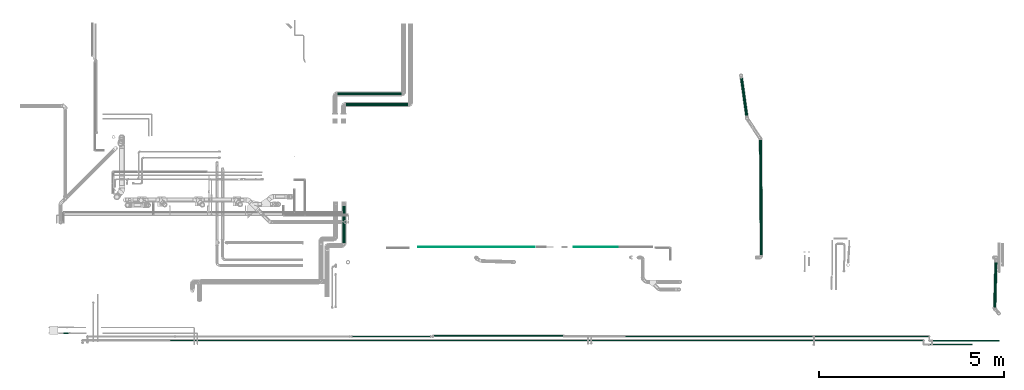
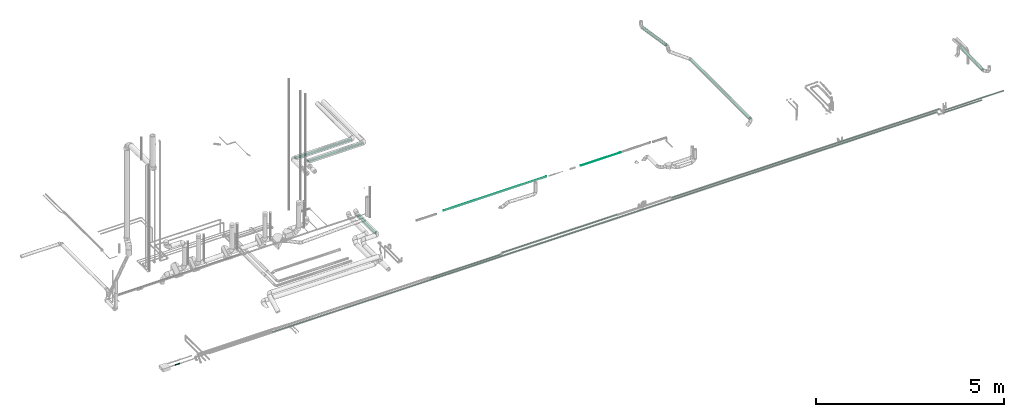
# One storey, part 52 of 156: 16 flow segments.
"""IFC2X3 building model written with IfcOpenShell, lengths in millimetres."""

from ifc_helpers import new_model, entity, si_unit, converted_unit, derived_unit, direction, frame, origin_with_axes, origin_2d_with_axis, place, context, subcontext, project, spatial, hollow_circle, extrude, source, transform, mapped, type_object, element, save


model = new_model("IFC2X3")

# Units and contexts
model_context = context("Model", 3, precision=0.01, world=frame((0.0, 4.29681676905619e-09, 0.0)), true_north=direction((4.01073788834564e-13, 1.0)))
plan_context = context("Plan", 3, precision=0.01, world=frame((0.0, 4.29681676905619e-09, 0.0)), true_north=direction((4.01073788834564e-13, 1.0)))
body_context = subcontext(model_context, "Body", "Model", "MODEL_VIEW")
ifc_project = project(units=[converted_unit("PLANEANGLEUNIT", "DEGREE", entity("IfcPositiveLengthMeasure", 0.0174532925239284), si_unit("PLANEANGLEUNIT", "RADIAN"), dimensions=[0, 0, 0, 0, 0, 0, 0]), si_unit("AREAUNIT", "SQUARE_METRE"), si_unit("LENGTHUNIT", "METRE", prefix="MILLI"), si_unit("MASSUNIT", "GRAM", prefix="KILO"), si_unit("POWERUNIT", "WATT"), si_unit("PRESSUREUNIT", "PASCAL", prefix="KILO"), si_unit("FORCEUNIT", "NEWTON", prefix="KILO"), si_unit("ELECTRICVOLTAGEUNIT", "VOLT"), si_unit("ELECTRICCURRENTUNIT", "AMPERE"), si_unit("THERMODYNAMICTEMPERATUREUNIT", "DEGREE_CELSIUS"), si_unit("TIMEUNIT", "SECOND"), si_unit("VOLUMEUNIT", "CUBIC_METRE"), derived_unit("LINEARVELOCITYUNIT", [(si_unit("LENGTHUNIT", "METRE"), 1), (si_unit("TIMEUNIT", "SECOND"), -1)]), derived_unit("VOLUMETRICFLOWRATEUNIT", [(si_unit("VOLUMEUNIT", "CUBIC_METRE"), 1), (si_unit("TIMEUNIT", "SECOND"), -1)]), derived_unit("THERMALTRANSMITTANCEUNIT", [(si_unit("POWERUNIT", "WATT"), 1), (si_unit("THERMODYNAMICTEMPERATUREUNIT", "KELVIN"), -1), (si_unit("AREAUNIT", "SQUARE_METRE"), -1)]), derived_unit("SOUNDPRESSUREUNIT", [(si_unit("PRESSUREUNIT", "PASCAL"), 1)])], contexts=[model_context, plan_context])

# Site, building, storey
site_placement = place(None, frame((0.0, -4.29681676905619e-09, 0.0), z_axis=(0.0, 0.0, 1.0), x_axis=(1.0, 0.0, 0.0)))
site = spatial("IfcSite", under=ifc_project, at=site_placement, CompositionType="ELEMENT")
building_placement = place(site_placement, frame((0.0, 4.29681676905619e-09, 0.0), z_axis=(0.0, 0.0, 1.0), x_axis=(1.0, 0.0, 0.0)))
building = spatial("IfcBuilding", under=site, at=building_placement, Name="mc-building", CompositionType="ELEMENT")
storey_placement = place(building_placement, frame((0.0, 0.0, 205200.0), z_axis=(0.0, 0.0, 1.0), x_axis=(1.0, 0.0, 0.0)))
storey = spatial("IfcBuildingStorey", under=building, at=storey_placement, Name="Nivå D + 1,2 m", CompositionType="ELEMENT", Elevation=205200.0)

# Flow segments
pipe_segment_type_1 = type_object("IfcPipeSegmentType", Name="Stålrør normaltykke", PredefinedType="RIGIDSEGMENT")
shared_shape_1 = source(origin_with_axes(), body_context, "Body", "SweptSolid", [
    extrude(hollow_circle(Radius=13.3, WallThickness=2.0, at=origin_2d_with_axis()), frame((0.0, 0.0, 0.0), z_axis=(1.0, 0.0, 0.0), x_axis=(0.0, 1.0, 0.0)), (0.0, 0.0, 1.0), 140.3),
])
flow_segment_1_placement = place(storey_placement, frame((322726.14866, 459123.07852, 4038.0), z_axis=(0.0, 0.0, 1.0), x_axis=(1.0, 0.0, 0.0)))
element("IfcFlowSegment", 1, at=flow_segment_1_placement, inside=storey, type_object=pipe_segment_type_1, Name="Stålrør normaltykke", context=body_context, shape_type="MappedRepresentation", body=[
    mapped(shared_shape_1, transform((0.0, 0.0, 0.0), scale=1.0)),
])
shared_shape_2 = source(origin_with_axes(), body_context, "Body", "SweptSolid", [
    extrude(hollow_circle(Radius=38.0, WallThickness=2.0, at=origin_2d_with_axis()), frame((0.0, 0.0, 0.0), z_axis=(1.0, 0.0, 0.0), x_axis=(0.0, 1.0, 0.0)), (0.0, 0.0, 1.0), 1000.6),
])
flow_segment_2_placement = place(storey_placement, frame((330320.17937, 461563.84313, 4172.95997999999), z_axis=(0.0, 0.0, 1.0), x_axis=(0.000105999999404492, 0.999999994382, 0.0)))
element("IfcFlowSegment", 2, at=flow_segment_2_placement, inside=storey, type_object=pipe_segment_type_1, Name="Stålrør normaltykke", context=body_context, shape_type="MappedRepresentation", body=[
    mapped(shared_shape_2, transform((0.0, 0.0, 0.0), scale=1.0)),
])
shared_shape_3 = source(origin_with_axes(), body_context, "Body", "SweptSolid", [
    extrude(hollow_circle(Radius=38.0, WallThickness=2.0, at=origin_2d_with_axis()), frame((0.0, 0.0, 0.0), z_axis=(1.0, 0.0, 0.0), x_axis=(0.0, 1.0, 0.0)), (0.0, 0.0, 1.0), 1725.0),
])
flow_segment_3_placement = place(storey_placement, frame((330145.28647, 465599.02233, 4231.88427000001), z_axis=(0.0, 1.0, 0.0), x_axis=(1.0, 0.0, 0.0)))
element("IfcFlowSegment", 3, at=flow_segment_3_placement, inside=storey, type_object=pipe_segment_type_1, Name="Stålrør normaltykke", context=body_context, shape_type="MappedRepresentation", body=[
    mapped(shared_shape_3, transform((0.0, 0.0, 0.0), scale=1.0)),
])
shared_shape_4 = source(origin_with_axes(), body_context, "Body", "SweptSolid", [
    extrude(hollow_circle(Radius=38.0, WallThickness=2.0, at=origin_2d_with_axis()), frame((0.0, 0.0, 0.0), z_axis=(1.0, 0.0, 0.0), x_axis=(0.0, 1.0, 0.0)), (0.0, 0.0, 1.0), 1684.8),
])
flow_segment_4_placement = place(storey_placement, frame((330370.5089, 465309.02232, 4224.21987), z_axis=(0.0, 1.0, 0.0), x_axis=(1.0, 0.0, 0.0)))
element("IfcFlowSegment", 4, at=flow_segment_4_placement, inside=storey, type_object=pipe_segment_type_1, Name="Stålrør normaltykke", context=body_context, shape_type="MappedRepresentation", body=[
    mapped(shared_shape_4, transform((0.0, 0.0, 0.0), scale=1.0)),
])
pipe_segment_type_2 = type_object("IfcPipeSegmentType", Name="MA", PredefinedType="RIGIDSEGMENT")
shared_shape_5 = source(origin_with_axes(), body_context, "Body", "SweptSolid", [
    extrude(hollow_circle(Radius=37.5, WallThickness=2.0, at=origin_2d_with_axis()), frame((0.0, 0.0, 0.0), z_axis=(1.0, 0.0, 0.0), x_axis=(0.0, 1.0, 0.0)), (0.0, 0.0, 1.0), 1221.9),
])
flow_segment_5_placement = place(storey_placement, frame((347961.27592, 461037.20708, 4362.41381999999), z_axis=(0.000314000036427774, 0.0119860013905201, 0.999928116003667), x_axis=(-0.0261559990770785, -0.999585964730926, 0.0119901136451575)))
element("IfcFlowSegment", 5, at=flow_segment_5_placement, inside=storey, type_object=pipe_segment_type_2, Name="MA", context=body_context, shape_type="MappedRepresentation", body=[
    mapped(shared_shape_5, transform((0.0, 0.0, 0.0), scale=1.0)),
])
shared_shape_6 = source(origin_with_axes(), body_context, "Body", "SweptSolid", [
    extrude(hollow_circle(Radius=37.5, WallThickness=2.0, at=origin_2d_with_axis()), frame((0.0, 0.0, 0.0), z_axis=(1.0, 0.0, 0.0), x_axis=(0.0, 1.0, 0.0)), (0.0, 0.0, 1.0), 3110.5),
])
flow_segment_6_placement = place(storey_placement, frame((341614.10206, 461243.36555, 4140.62007), z_axis=(-0.707994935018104, 0.00327099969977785, -0.706209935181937), x_axis=(-0.00728713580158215, 0.999902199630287, 0.0119368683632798)))
element("IfcFlowSegment", 6, at=flow_segment_6_placement, inside=storey, type_object=pipe_segment_type_2, Name="MA", context=body_context, shape_type="MappedRepresentation", body=[
    mapped(shared_shape_6, transform((0.0, 0.0, 0.0), scale=1.0)),
])
shared_shape_7 = source(origin_with_axes(), body_context, "Body", "SweptSolid", [
    extrude(hollow_circle(Radius=37.5, WallThickness=2.0, at=origin_2d_with_axis()), frame((0.0, 0.0, 0.0), z_axis=(1.0, 0.0, 0.0), x_axis=(0.0, 1.0, 0.0)), (0.0, 0.0, 1.0), 1020.9),
])
flow_segment_7_placement = place(storey_placement, frame((341218.01812, 465008.42896, 4382.15203999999), z_axis=(0.0, 0.0, 1.0), x_axis=(-0.139173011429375, 0.990268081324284, 0.0)))
element("IfcFlowSegment", 7, at=flow_segment_7_placement, inside=storey, type_object=pipe_segment_type_2, Name="MA", context=body_context, shape_type="MappedRepresentation", body=[
    mapped(shared_shape_7, transform((0.0, 0.0, 0.0), scale=1.0)),
])
shared_shape_8 = source(origin_with_axes(), body_context, "Body", "SweptSolid", [
    extrude(hollow_circle(Radius=8.6, WallThickness=2.0, at=origin_2d_with_axis()), frame((0.0, 0.0, 0.0), z_axis=(1.0, 0.0, 0.0), x_axis=(0.0, 1.0, 0.0)), (0.0, 0.0, 1.0), 20387.0),
])
flow_segment_8_placement = place(storey_placement, frame((325608.02776, 458928.61963, 4216.68835000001), z_axis=(0.0, 0.0, 1.0), x_axis=(1.0, 0.0, 0.0)))
element("IfcFlowSegment", 8, at=flow_segment_8_placement, inside=storey, type_object=pipe_segment_type_1, Name="Stålrør normaltykke", context=body_context, shape_type="MappedRepresentation", body=[
    mapped(shared_shape_8, transform((0.0, 0.0, 0.0), scale=1.0)),
])
shared_shape_9 = source(origin_with_axes(), body_context, "Body", "SweptSolid", [
    extrude(hollow_circle(Radius=8.6, WallThickness=2.0, at=origin_2d_with_axis()), frame((0.0, 0.0, 0.0), z_axis=(1.0, 0.0, 0.0), x_axis=(0.0, 1.0, 0.0)), (0.0, 0.0, 1.0), 3096.6),
])
flow_segment_9_placement = place(storey_placement, frame((343050.9464, 459036.28651, 4203.32044000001), z_axis=(0.0, 0.0, 1.0), x_axis=(1.0, 0.0, 0.0)))
element("IfcFlowSegment", 9, at=flow_segment_9_placement, inside=storey, type_object=pipe_segment_type_1, Name="Stålrør normaltykke", context=body_context, shape_type="MappedRepresentation", body=[
    mapped(shared_shape_9, transform((0.0, 0.0, 0.0), scale=1.0)),
])
shared_shape_10 = source(origin_with_axes(), body_context, "Body", "SweptSolid", [
    extrude(hollow_circle(Radius=8.6, WallThickness=2.0, at=origin_2d_with_axis()), frame((0.0, 0.0, 0.0), z_axis=(1.0, 0.0, 0.0), x_axis=(0.0, 1.0, 0.0)), (0.0, 0.0, 1.0), 2117.0),
])
flow_segment_10_placement = place(storey_placement, frame((330538.73106, 459031.28638, 4198.32044000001), z_axis=(0.0, 0.0, 1.0), x_axis=(1.0, 0.0, 0.0)))
element("IfcFlowSegment", 10, at=flow_segment_10_placement, inside=storey, type_object=pipe_segment_type_1, Name="Stålrør normaltykke", context=body_context, shape_type="MappedRepresentation", body=[
    mapped(shared_shape_10, transform((0.0, 0.0, 0.0), scale=1.0)),
])
shared_shape_11 = source(origin_with_axes(), body_context, "Body", "SweptSolid", [
    extrude(hollow_circle(Radius=8.6, WallThickness=2.0, at=origin_2d_with_axis()), frame((0.0, 0.0, 0.0), z_axis=(1.0, 0.0, 0.0), x_axis=(0.0, 1.0, 0.0)), (0.0, 0.0, 1.0), 3512.2),
])
flow_segment_11_placement = place(storey_placement, frame((332742.00897, 459051.28638, 4228.32044000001), z_axis=(0.0, 0.0, 1.0), x_axis=(1.0, 0.0, 0.0)))
element("IfcFlowSegment", 11, at=flow_segment_11_placement, inside=storey, type_object=pipe_segment_type_1, Name="Stålrør normaltykke", context=body_context, shape_type="MappedRepresentation", body=[
    mapped(shared_shape_11, transform((0.0, 0.0, 0.0), scale=1.0)),
])
shared_shape_12 = source(origin_with_axes(), body_context, "Body", "SweptSolid", [
    extrude(hollow_circle(Radius=8.6, WallThickness=2.0, at=origin_2d_with_axis()), frame((0.0, 0.0, 0.0), z_axis=(1.0, 0.0, 0.0), x_axis=(0.0, 1.0, 0.0)), (0.0, 0.0, 1.0), 5081.9),
])
flow_segment_12_placement = place(storey_placement, frame((337934.66609, 459036.28638, 4203.32044000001), z_axis=(0.0, 0.0, 1.0), x_axis=(1.0, 0.0, 0.0)))
element("IfcFlowSegment", 12, at=flow_segment_12_placement, inside=storey, type_object=pipe_segment_type_1, Name="Stålrør normaltykke", context=body_context, shape_type="MappedRepresentation", body=[
    mapped(shared_shape_12, transform((0.0, 0.0, 0.0), scale=1.0)),
])
shared_shape_13 = source(origin_with_axes(), body_context, "Body", "SweptSolid", [
    extrude(hollow_circle(Radius=8.6, WallThickness=2.0, at=origin_2d_with_axis()), frame((0.0, 0.0, 0.0), z_axis=(1.0, 0.0, 0.0), x_axis=(0.0, 1.0, 0.0)), (0.0, 0.0, 1.0), 1807.2),
])
flow_segment_13_placement = place(storey_placement, frame((346245.26078, 458918.61963, 4203.32044000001), z_axis=(0.0, 0.0, 1.0), x_axis=(1.0, 0.0, 0.0)))
element("IfcFlowSegment", 13, at=flow_segment_13_placement, inside=storey, type_object=pipe_segment_type_1, Name="Stålrør normaltykke", context=body_context, shape_type="MappedRepresentation", body=[
    mapped(shared_shape_13, transform((0.0, 0.0, 0.0), scale=1.0)),
])
shared_shape_14 = source(origin_with_axes(), body_context, "Body", "SweptSolid", [
    extrude(hollow_circle(Radius=8.6, WallThickness=2.0, at=origin_2d_with_axis()), frame((0.0, 0.0, 0.0), z_axis=(1.0, 0.0, 0.0), x_axis=(0.0, 1.0, 0.0)), (0.0, 0.0, 1.0), 1166.2),
])
flow_segment_14_placement = place(storey_placement, frame((346158.80779, 458813.61963, 4216.68835000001), z_axis=(0.0, 0.0, 1.0), x_axis=(1.0, 0.0, 0.0)))
element("IfcFlowSegment", 14, at=flow_segment_14_placement, inside=storey, type_object=pipe_segment_type_1, Name="Stålrør normaltykke", context=body_context, shape_type="MappedRepresentation", body=[
    mapped(shared_shape_14, transform((0.0, 0.0, 0.0), scale=1.0)),
])
pipe_segment_type_3 = type_object("IfcPipeSegmentType", Name="Kobberrør", PredefinedType="RIGIDSEGMENT")
shared_shape_15 = source(origin_with_axes(), body_context, "Body", "SweptSolid", [
    extrude(hollow_circle(Radius=6.0, WallThickness=2.0, at=origin_2d_with_axis()), frame((0.0, 0.0, 0.0), z_axis=(1.0, 0.0, 0.0), x_axis=(0.0, 1.0, 0.0)), (0.0, 0.0, 1.0), 1215.0),
])
flow_segment_15_placement = place(storey_placement, frame((337756.70588, 461450.75941, 4266.92687), z_axis=(0.0, 0.0, 1.0), x_axis=(-1.0, 0.0, 0.0)))
element("IfcFlowSegment", 15, at=flow_segment_15_placement, inside=storey, type_object=pipe_segment_type_3, Name="Kobberrør", context=body_context, shape_type="MappedRepresentation", body=[
    mapped(shared_shape_15, transform((0.0, 0.0, 0.0), scale=1.0)),
])
shared_shape_16 = source(origin_with_axes(), body_context, "Body", "SweptSolid", [
    extrude(hollow_circle(Radius=6.0, WallThickness=2.0, at=origin_2d_with_axis()), frame((0.0, 0.0, 0.0), z_axis=(1.0, 0.0, 0.0), x_axis=(0.0, 1.0, 0.0)), (0.0, 0.0, 1.0), 3148.5),
])
flow_segment_16_placement = place(storey_placement, frame((332328.42789, 461458.25941, 4275.67687), z_axis=(0.0, 0.0, 1.0), x_axis=(1.0, 0.0, 0.0)))
element("IfcFlowSegment", 16, at=flow_segment_16_placement, inside=storey, type_object=pipe_segment_type_3, Name="Kobberrør", context=body_context, shape_type="MappedRepresentation", body=[
    mapped(shared_shape_16, transform((0.0, 0.0, 0.0), scale=1.0)),
])

save(model, "model.ifc")
